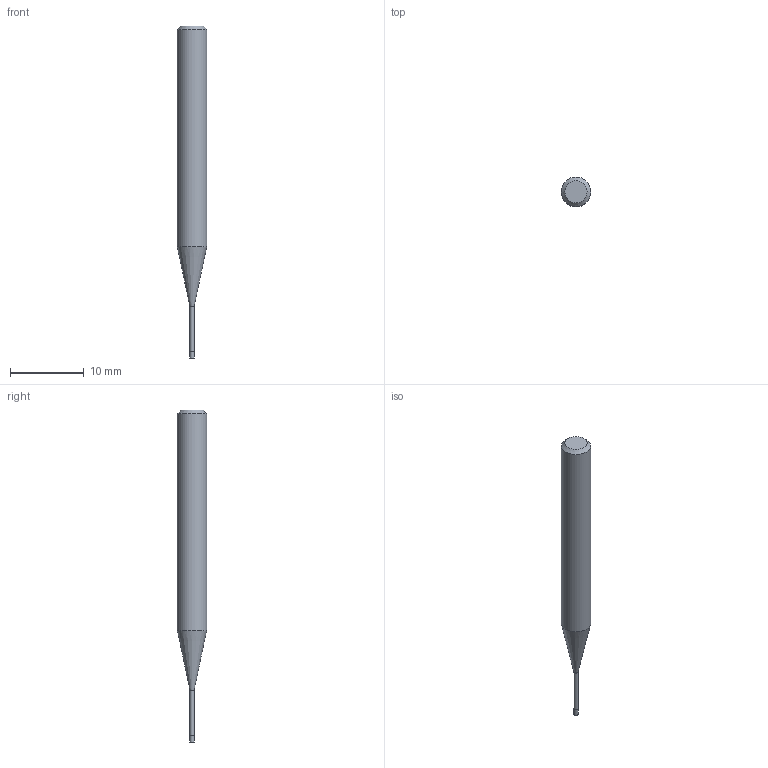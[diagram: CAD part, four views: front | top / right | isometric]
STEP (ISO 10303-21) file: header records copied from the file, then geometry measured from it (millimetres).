
FILE_DESCRIPTION((''),'2;1');
FILE_NAME('C:\Users\nsx150\AppData\Local\Temp\Mastercam 2021\17T8Q8S9EB\TEMP.step','2021-04-21T14:24:52',(''),(''),'STEP Write','Mastercam 2021 ... CNC Software, Inc.','');
FILE_SCHEMA(('AUTOMOTIVE_DESIGN'));
Length unit declared in the file: millimetre
Products named in the file (1): None
Bounding box: 4 x 4 x 45 mm (x, y, z)
Volume: 415.5 mm3; surface area: 456.9 mm2
Topology: 2 solids, 2 shells, 9 faces, 12 edges, 7 vertices
Faces by surface type: plane 4, cylinder 3, cone 2
Full cylindrical faces by diameter (mm): 0.56 x1, 0.6 x1, 4 x1
Entity records: 211 total; most frequent: DIRECTION 36, CARTESIAN_POINT 25, AXIS2_PLACEMENT_3D 18, ORIENTED_EDGE 14, EDGE_LOOP 14, STYLED_ITEM 12, ADVANCED_FACE 9, FACE_BOUND 8
